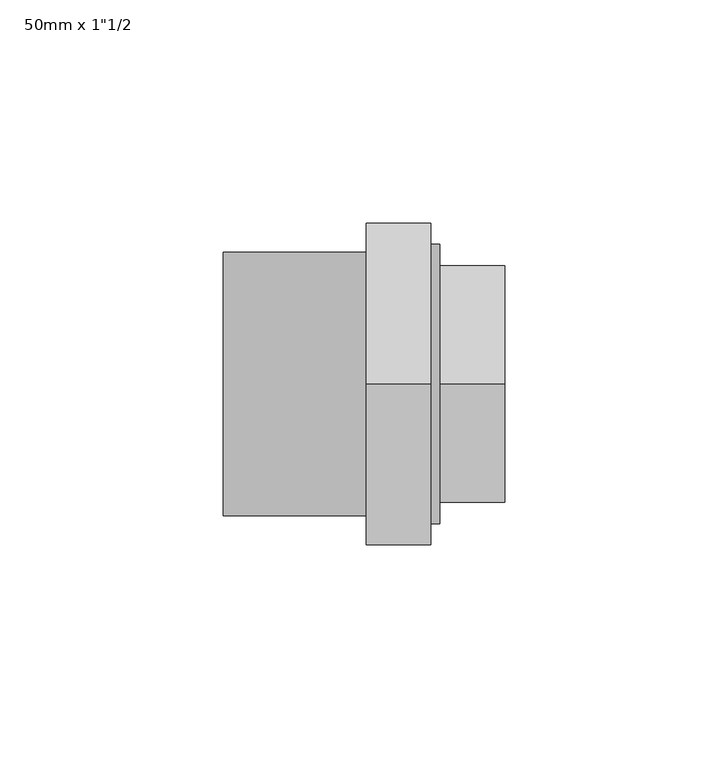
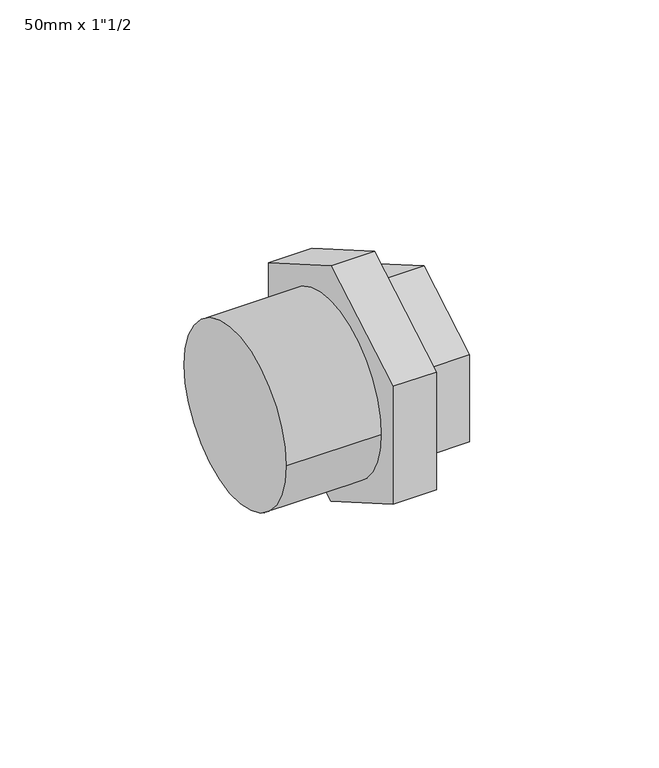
"""IFC4 building model written with IfcOpenShell, lengths in millimetres: pipe fitting geometry."""

from ifc_helpers import new_model, si_unit, point, frame, origin, origin_2d, place, context, project, spatial, circle_curve, trimmed, segment, composite_curve, outline, extrude, source, transform, mapped, element, save
from ifc_brep_helpers import plane_surface, cylinder_surface, advanced_brep


def pipe_fitting_0e4c5e2e(model_context):
    return source(origin(), model_context, "Body", "SolidModel", [
        advanced_brep(
        [(47.0, 0.0, 30.5995643), (47.0, -26.5, 15.2997821), (47.0, -26.5, -15.2997821), (47.0, 0.0, -30.5995643), (47.0, 26.5, -15.2997821), (47.0, 26.5, 15.2997821), (32.5, 26.5, 15.2997821), (32.5, 0.0, 30.5995643), (32.5, 26.5, -15.2997821), (32.5, 0.0, -30.5995643), (32.5, -26.5, -15.2997821), (32.5, -26.5, 15.2997821), (32.5, -31.25, 0.0), (32.5, 31.25, 0.0), (30.5, 31.25, 0.0), (30.5, -31.25, 0.0), (16.0, 0.0, 41.5692194), (16.0, 36.0, 20.7846097), (16.0, 36.0, -20.7846097), (16.0, 0.0, -41.5692194), (16.0, -36.0, -20.7846097), (16.0, -36.0, 20.7846097), (30.5, 0.0, 41.5692194), (30.5, -36.0, 20.7846097), (30.5, -36.0, -20.7846097), (30.5, 0.0, -41.5692194), (30.5, 36.0, -20.7846097), (30.5, 36.0, 20.7846097)],
        [
            (0, 1),
            (1, 2),
            (2, 3),
            (3, 4),
            (4, 5),
            (5, 0),
            (5, 6),
            (6, 7),
            (7, 0),
            (4, 8),
            (8, 6),
            (3, 9),
            (9, 8),
            (2, 10),
            (10, 9),
            (1, 11),
            (11, 10),
            (7, 11),
            (12, 13, circle_curve(frame((32.5, 0.0, 0.0), z_axis=(1.0, 0.0, 0.0), x_axis=(0.0, 1.0, 0.0)), 31.25)),
            (13, 12, circle_curve(frame((32.5, 0.0, 0.0), z_axis=(1.0, 0.0, 0.0), x_axis=(0.0, 1.0, 0.0)), 31.25)),
            (13, 14),
            (14, 15, circle_curve(frame((30.5, 0.0, 0.0), z_axis=(1.0, 0.0, 0.0), x_axis=(0.0, 1.0, 0.0)), 31.25)),
            (15, 12),
            (15, 14, circle_curve(frame((30.5, 0.0, 0.0), z_axis=(1.0, 0.0, 0.0), x_axis=(0.0, 1.0, 0.0)), 31.25)),
            (16, 17),
            (17, 18),
            (18, 19),
            (19, 20),
            (20, 21),
            (21, 16),
            (22, 23),
            (23, 24),
            (24, 25),
            (25, 26),
            (26, 27),
            (27, 22),
            (16, 22),
            (27, 17),
            (26, 18),
            (25, 19),
            (24, 20),
            (23, 21),
        ],
        [
            plane_surface(frame((47.0, 0.0, 0.0), z_axis=(1.0, 0.0, 0.0), x_axis=(0.0, 0.0, 1.0))),
            plane_surface(frame((32.5, 0.0, 30.5995643), z_axis=(0.0, 0.49999999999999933, 0.866025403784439), x_axis=(1.0, 0.0, 0.0))),
            plane_surface(frame((32.5, 26.5, 15.2997821), z_axis=(0.0, 1.0, 0.0), x_axis=(1.0, 0.0, 0.0))),
            plane_surface(frame((32.5, 26.5, -15.2997821), z_axis=(0.0, 0.49999999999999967, -0.8660254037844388), x_axis=(1.0, 0.0, 0.0))),
            plane_surface(frame((32.5, 0.0, -30.5995643), z_axis=(0.0, -0.5000000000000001, -0.8660254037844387), x_axis=(1.0, 0.0, 0.0))),
            plane_surface(frame((32.5, -26.5, -15.2997821), z_axis=(0.0, -1.0, 0.0), x_axis=(1.0, 0.0, 0.0))),
            plane_surface(frame((32.5, -26.5, 15.2997821), z_axis=(0.0, -0.500000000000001, 0.866025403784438), x_axis=(1.0, 0.0, 0.0))),
            plane_surface(frame((32.5, 0.0, 0.0), z_axis=(1.0, 0.0, 0.0), x_axis=(0.0, 0.0, 1.0))),
            cylinder_surface(frame((30.5, 0.0, 0.0), z_axis=(-1.0, 0.0, 0.0), x_axis=(0.0, 1.0, 0.0)), 31.25),
            plane_surface(frame((16.0, 0.0, 0.0), z_axis=(-1.0, 0.0, 0.0), x_axis=(0.0, 0.0, 1.0))),
            plane_surface(frame((30.5, 0.0, 0.0), z_axis=(1.0, 0.0, 0.0), x_axis=(0.0, 0.0, 1.0))),
            plane_surface(frame((16.0, 0.0, 41.5692194), z_axis=(0.0, 0.4999999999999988, 0.8660254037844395), x_axis=(1.0, 0.0, 0.0))),
            plane_surface(frame((16.0, 36.0, 20.7846097), z_axis=(0.0, 1.0, 0.0), x_axis=(1.0, 0.0, 0.0))),
            plane_surface(frame((16.0, 36.0, -20.7846097), z_axis=(0.0, 0.4999999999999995, -0.866025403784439), x_axis=(1.0, 0.0, 0.0))),
            plane_surface(frame((16.0, 0.0, -41.5692194), z_axis=(0.0, -0.4999999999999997, -0.8660254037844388), x_axis=(1.0, 0.0, 0.0))),
            plane_surface(frame((16.0, -36.0, -20.7846097), z_axis=(0.0, -1.0, 0.0), x_axis=(1.0, 0.0, 0.0))),
            plane_surface(frame((16.0, -36.0, 20.7846097), z_axis=(0.0, -0.4999999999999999, 0.8660254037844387), x_axis=(1.0, 0.0, 0.0))),
        ],
        [
            (0, [[1, 2, 3, 4, 5, 6]]),
            (1, [[-6, 7, 8, 9]]),
            (2, [[-5, 10, 11, -7]]),
            (3, [[-4, 12, 13, -10]]),
            (4, [[-3, 14, 15, -12]]),
            (5, [[-2, 16, 17, -14]]),
            (6, [[-1, -9, 18, -16]]),
            (7, [[19, 20], [-8, -11, -13, -15, -17, -18]]),
            (8, [[-20, 21, 22, 23]]),
            (8, [[-19, -23, 24, -21]]),
            (9, [[25, 26, 27, 28, 29, 30]]),
            (10, [[31, 32, 33, 34, 35, 36], [-22, -24]]),
            (11, [[-25, 37, -36, 38]]),
            (12, [[-26, -38, -35, 39]]),
            (13, [[-27, -39, -34, 40]]),
            (14, [[-28, -40, -33, 41]]),
            (15, [[-29, -41, -32, 42]]),
            (16, [[-30, -42, -31, -37]]),
        ],
    ),
        extrude(outline(composite_curve([segment(trimmed(circle_curve(origin_2d(), 29.5), [point((-29.5, 0.0))], [point((29.5, 0.0))], False, "CARTESIAN"), True, "CONTINUOUS"), segment(trimmed(circle_curve(origin_2d(), 29.5), [point((29.5, 0.0))], [point((-29.5, 0.0))], False, "CARTESIAN"), True, "CONTINUOUS")], self_intersect=False)), frame((-16.0, 0.0, 0.0), z_axis=(1.0, 0.0, 0.0), x_axis=(0.0, 1.0, 0.0)), (0.0, 0.0, 1.0), 32.0),
    ])


if __name__ == "__main__":
    model = new_model("IFC4")
    model_context = context("Model", 3, world=origin())
    ifc_project = project(units=[si_unit("LENGTHUNIT", "METRE", prefix="MILLI")], contexts=[model_context])
    site = spatial("IfcSite", under=ifc_project)
    building = spatial("IfcBuilding", under=site)
    placement = place(None, origin())
    pipe_fitting_shape = pipe_fitting_0e4c5e2e(model_context)
    element("IfcPipeFitting", 1, ObjectType="PipeFitting_HTA_CPVC_3PieceUnions_(CPVC-Brass) : 50mm x 1\"1/2", at=placement, inside=building, context=model_context, shape_type="MappedRepresentation", body=[
        mapped(pipe_fitting_shape, transform((0.0, 0.0, 0.0), x_axis=(1.0, 0.0, 0.0), y_axis=(0.0, 1.0, 0.0), z_axis=(0.0, 0.0, 1.0))),
    ])
    save(model, "model.ifc")
